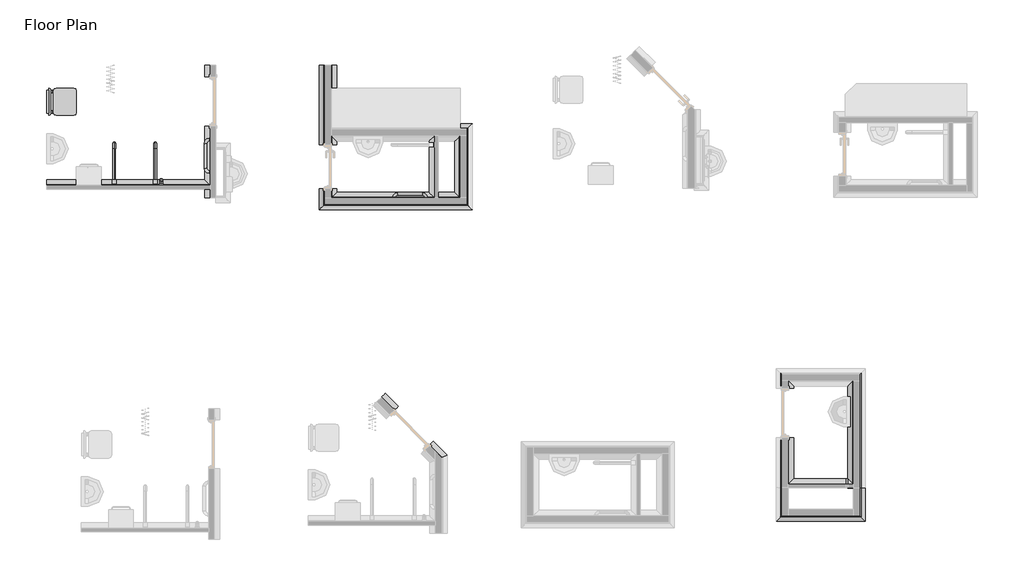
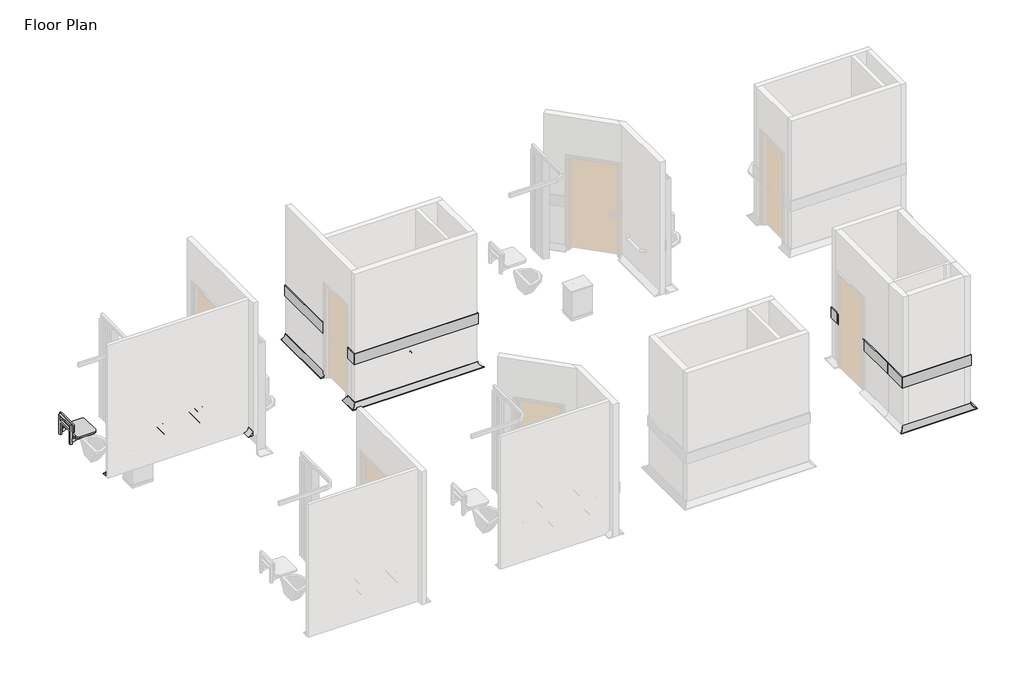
# One storey, part 3 of 4: 31 proxies.
"""IFC4 building model written with IfcOpenShell, lengths in millimetres."""

from ifc_helpers import new_model, si_unit, point, frame, frame_2d, origin, place, context, project, spatial, polyline, circle_curve, ellipse_curve, trimmed, segment, composite_curve, outline, extrude, transform, mapped, element, save
from ifc_brep_helpers import plane_surface, revolved_surface, advanced_brep
from components import generic_models_2748bf89, generic_models_79982e2d, type_1_021b8e3e, type_1_c6378e0a, type_1_5029713c

model = new_model("IFC4")

# Units and contexts
model_context = context("Model", 3, world=origin())
ifc_project = project(units=[si_unit("LENGTHUNIT", "METRE", prefix="MILLI")], contexts=[model_context])

# Site, building, storey
site = spatial("IfcSite", under=ifc_project)
building = spatial("IfcBuilding", under=site)
storey = spatial("IfcBuildingStorey", under=building, Name="Floor Plan", Elevation=0.0)

# Proxies
placement = place(None, origin())
element("IfcBuildingElementProxy", 1, Name="Wall Sweeps", at=placement, inside=storey, context=model_context, shape_type="AdvancedBrep", body=[
    advanced_brep(
    [(51894.1778474, -16143.6150189, 0.0), (51894.1778474, -16143.6150189, 100.0), (51904.1778474, -16143.6150189, 100.0), (51994.1778474, -16143.6150189, 10.0), (51994.1778474, -16143.6150189, 0.0), (51894.1778474, -17067.8650189, 0.0), (51994.1778474, -17067.8650189, 0.0), (51994.1778474, -17067.8650189, 10.0), (51904.1778474, -17067.8650189, 100.0), (51894.1778474, -17067.8650189, 100.0)],
    [
        (0, 1),
        (1, 2),
        (2, 3, circle_curve(frame((51994.1778474, -16143.6150189, 100.0), z_axis=(0.0, -1.0, 0.0), x_axis=(1.0, 0.0, 0.0)), 90.0)),
        (3, 4),
        (4, 0),
        (5, 6),
        (6, 7),
        (7, 8, circle_curve(frame((51994.1778474, -17067.8650189, 100.0), z_axis=(0.0, 1.0, 0.0), x_axis=(1.0, 0.0, 0.0)), 90.0)),
        (8, 9),
        (9, 5),
        (4, 6),
        (5, 0),
        (3, 7),
        (2, 8),
        (1, 9),
    ],
    [
        plane_surface(frame((51793.6790911, -16143.6150189, 0.0), z_axis=(0.0, 1.0, 0.0), x_axis=(0.0, 0.0, -1.0))),
        plane_surface(frame((51793.6790911, -17067.8650189, 0.0), z_axis=(0.0, -1.0, 0.0), x_axis=(0.0, 0.0, -1.0))),
        plane_surface(frame((51994.1778474, -16143.6150189, 0.0), z_axis=(0.0, 0.0, -1.0), x_axis=(0.0, -1.0, 0.0))),
        plane_surface(frame((51994.1778474, -16143.6150189, 10.0), z_axis=(1.0, 0.0, 0.0), x_axis=(0.0, -1.0, 0.0))),
        revolved_surface(polyline([(52084.1778474, -17067.8650189, 100.0), (52084.1778474, -16143.6150189, 100.0)]), (51994.1778474, -16143.6150189, 100.0), (0.0, -1.0, 0.0)),
        plane_surface(frame((51894.1778474, -16143.6150189, 100.0), z_axis=(0.0, 0.0, 1.0), x_axis=(0.0, -1.0, 0.0))),
        plane_surface(frame((51894.1778474, -16143.6150189, 0.0), z_axis=(-1.0, 0.0, 0.0), x_axis=(0.0, -1.0, 0.0))),
    ],
    [
        (0, [[1, 2, 3, 4, 5]]),
        (1, [[6, 7, 8, 9, 10]]),
        (2, [[-5, 11, -6, 12]]),
        (3, [[-4, 13, -7, -11]]),
        (4, [[-3, 14, -8, -13]]),
        (5, [[-2, 15, -9, -14]]),
        (6, [[-1, -12, -10, -15]]),
    ],
),
    advanced_brep(
    [(51894.1778474, -15093.6150189, 0.0), (51894.1778474, -15093.6150189, 100.0), (51904.1778474, -15103.6150189, 100.0), (51994.1778474, -15193.6150189, 10.0), (51994.1778474, -15193.6150189, 0.0), (51894.1778474, -15233.6150189, 0.0), (51994.1778474, -15233.6150189, 0.0), (51994.1778474, -15233.6150189, 10.0), (51904.1778474, -15233.6150189, 100.0), (51894.1778474, -15233.6150189, 100.0)],
    [
        (0, 1),
        (1, 2),
        (2, 3, ellipse_curve(frame((51994.1778474, -15193.6150189, 100.0), z_axis=(-0.707106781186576, -0.7071067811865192, 0.0), x_axis=(0.7071067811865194, -0.7071067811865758, 0.0)), 127.2792206, 90.0)),
        (3, 4),
        (4, 0),
        (5, 6),
        (6, 7),
        (7, 8, circle_curve(frame((51994.1778474, -15233.6150189, 100.0), z_axis=(0.0, 1.0, 0.0), x_axis=(1.0, 0.0, 0.0)), 90.0)),
        (8, 9),
        (9, 5),
        (0, 5),
        (9, 1),
        (8, 2),
        (7, 3),
        (6, 4),
    ],
    [
        plane_surface(frame((51894.1778474, -15093.6150189, -304.8), z_axis=(0.707106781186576, 0.7071067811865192, 0.0), x_axis=(0.7071067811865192, -0.707106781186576, 0.0))),
        plane_surface(frame((51793.6790911, -15233.6150189, 0.0), z_axis=(0.0, -1.0, 0.0), x_axis=(0.0, 0.0, -1.0))),
        plane_surface(frame((51894.1778474, -15093.6150189, 0.0), z_axis=(-1.0, 0.0, 0.0), x_axis=(0.0, -1.0, 0.0))),
        plane_surface(frame((51894.1778474, -15093.6150189, 100.0), z_axis=(0.0, 0.0, 1.0), x_axis=(0.0, -1.0, 0.0))),
        revolved_surface(polyline([(52084.1778474, -15283.615018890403, 100.0), (52084.1778474, -15103.6150189, 100.0)]), (51994.1778474, -15093.6150189, 100.0), (0.0, -1.0, 0.0)),
        plane_surface(frame((51994.1778474, -15193.6150189, 10.0), z_axis=(1.0, 0.0, 0.0), x_axis=(0.0, -1.0, 0.0))),
        plane_surface(frame((51994.1778474, -15193.6150189, 0.0), z_axis=(0.0, 0.0, -1.0), x_axis=(0.0, -1.0, 0.0))),
    ],
    [
        (0, [[1, 2, 3, 4, 5]]),
        (1, [[6, 7, 8, 9, 10]]),
        (2, [[-1, 11, -10, 12]]),
        (3, [[-2, -12, -9, 13]]),
        (4, [[-3, -13, -8, 14]]),
        (5, [[-4, -14, -7, 15]]),
        (6, [[-5, -15, -6, -11]]),
    ],
),
])
element("IfcBuildingElementProxy", 2, Name="Wall Sweeps", at=placement, inside=storey, context=model_context, shape_type="SweptSolid", body=[
    extrude(outline(polyline([(51753.6778474, -14953.1150189), (51772.6778474, -14972.1150189), (51772.6778474, -15233.6150189), (51753.6778474, -15233.6150189), (51753.6778474, -14953.1150189)])), frame((0.0, 0.0, 965.0), z_axis=(0.0, 0.0, 1.0), x_axis=(1.0, 0.0, 0.0)), (0.0, 0.0, 1.0), 235.0),
    extrude(outline(polyline([(51753.6778474, -16143.6150189), (51772.6778474, -16143.6150189), (51772.6778474, -17067.8650189), (51753.6778474, -17067.8650189), (51753.6778474, -16143.6150189)])), frame((0.0, 0.0, 965.0), z_axis=(0.0, 0.0, 1.0), x_axis=(1.0, 0.0, 0.0)), (0.0, 0.0, 1.0), 235.0),
])
element("IfcBuildingElementProxy", 3, Name="Wall Sweeps", at=placement, inside=storey, context=model_context, shape_type="SweptSolid", body=[
    extrude(outline(composite_curve([segment(polyline([(-16998.6150189, 0.0), (-16998.6150189, 100.0), (-16988.6150189, 100.0)]), True, "CONTINUOUS"), segment(trimmed(circle_curve(frame_2d((-16898.6150189, 100.0)), 90.0), [point((-16988.6150189, 100.0))], [point((-16898.6150189, 10.0))], True, "CARTESIAN"), True, "CONTINUOUS"), segment(polyline([(-16898.6150189, 10.0), (-16898.6150189, 0.0), (-16998.6150189, 0.0)]), True, "CONTINUOUS")], self_intersect=False)), frame((52993.4278474, 0.0, 0.0), z_axis=(1.0, 0.0, 0.0), x_axis=(0.0, 1.0, 0.0)), (0.0, 0.0, 1.0), 100.75),
])
element("IfcBuildingElementProxy", 4, Name="Wall Sweeps", at=placement, inside=storey, context=model_context, shape_type="AdvancedBrep", body=[
    advanced_brep(
    [(53215.6778474, -17582.1150189, 0.0), (53315.6778474, -17682.1150189, 0.0), (53315.6778474, -17682.1150189, 10.0), (53225.6778474, -17592.1150189, 100.0), (53215.6778474, -17582.1150189, 100.0), (53215.6778474, -17073.6150189, 0.0), (53215.6778474, -17073.6150189, 100.0), (53225.6778474, -17073.6150189, 100.0), (53315.6778474, -17073.6150189, 10.0), (53315.6778474, -17073.6150189, 0.0)],
    [
        (0, 1),
        (1, 2),
        (2, 3, ellipse_curve(frame((53315.6778474, -17682.1150189, 100.0), z_axis=(0.7071067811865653, 0.7071067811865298, 0.0), x_axis=(-0.7071067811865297, 0.7071067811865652, 0.0)), 127.2792206, 90.0)),
        (3, 4),
        (4, 0),
        (5, 6),
        (6, 7),
        (7, 8, circle_curve(frame((53315.6778474, -17073.6150189, 100.0), z_axis=(0.0, -1.0, 0.0), x_axis=(1.0, 0.0, 0.0)), 90.0)),
        (8, 9),
        (9, 5),
        (4, 6),
        (5, 0),
        (3, 7),
        (2, 8),
        (1, 9),
    ],
    [
        plane_surface(frame((53215.6778474, -17582.1150189, -304.8), z_axis=(-0.7071067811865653, -0.7071067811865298, 0.0), x_axis=(-0.7071067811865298, 0.7071067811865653, 0.0))),
        plane_surface(frame((53215.6778474, -17073.6150189, 304.8), z_axis=(0.0, 1.0, 0.0), x_axis=(1.0, 0.0, 0.0))),
        plane_surface(frame((53215.6778474, -17582.1150189, 100.0), z_axis=(-1.0, 0.0, 0.0), x_axis=(0.0, 1.0, 0.0))),
        plane_surface(frame((53225.6778474, -17592.1150189, 100.0), z_axis=(0.0, 0.0, 1.0), x_axis=(0.0, 1.0, 0.0))),
        revolved_surface(polyline([(53405.6778474, -17073.6150189, 100.0), (53405.6778474, -17772.1150188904, 100.0)]), (53315.6778474, -17582.1150189, 100.0), (0.0, 1.0, 0.0)),
        plane_surface(frame((53315.6778474, -17682.1150189, 0.0), z_axis=(1.0, 0.0, 0.0), x_axis=(0.0, 1.0, 0.0))),
        plane_surface(frame((53215.6778474, -17582.1150189, 0.0), z_axis=(0.0, 0.0, -1.0), x_axis=(0.0, 1.0, 0.0))),
    ],
    [
        (0, [[1, 2, 3, 4, 5]]),
        (1, [[6, 7, 8, 9, 10]]),
        (2, [[-5, 11, -6, 12]]),
        (3, [[-4, 13, -7, -11]]),
        (4, [[-3, 14, -8, -13]]),
        (5, [[-2, 15, -9, -14]]),
        (6, [[-1, -12, -10, -15]]),
    ],
),
])
element("IfcBuildingElementProxy", 5, Name="Wall Sweeps", at=placement, inside=storey, context=model_context, shape_type="SweptSolid", body=[
    extrude(outline(polyline([(53234.6778474, -17601.1150189), (53215.6778474, -17582.1150189), (53215.6778474, -17073.6150189), (53234.6778474, -17073.6150189), (53234.6778474, -17601.1150189)])), frame((0.0, 0.0, 965.0), z_axis=(0.0, 0.0, 1.0), x_axis=(1.0, 0.0, 0.0)), (0.0, 0.0, 1.0), 235.0),
])
element("IfcBuildingElementProxy", 6, Name="Wall Sweeps", at=placement, inside=storey, context=model_context, shape_type="AdvancedBrep", body=[
    advanced_brep(
    [(53215.6778474, -17582.1150189, 0.0), (53215.6778474, -17582.1150189, 100.0), (53225.6778474, -17592.1150189, 100.0), (53315.6778474, -17682.1150189, 10.0), (53315.6778474, -17682.1150189, 0.0), (51772.6778474, -17582.1150189, 0.0), (51672.6778474, -17682.1150189, 0.0), (51672.6778474, -17682.1150189, 10.0), (51762.6778474, -17592.1150189, 100.0), (51772.6778474, -17582.1150189, 100.0), (53094.1778474, -17582.1150189, 0.0), (51894.1778474, -17582.1150189, 0.0)],
    [
        (0, 1),
        (1, 2),
        (2, 3, ellipse_curve(frame((53315.6778474, -17682.1150189, 100.0), z_axis=(-0.7071067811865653, -0.7071067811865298, 0.0), x_axis=(-0.7071067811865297, 0.7071067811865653, 0.0)), 127.2792206, 90.0)),
        (3, 4),
        (4, 0),
        (5, 6),
        (6, 7),
        (7, 8, ellipse_curve(frame((51672.6778474, -17682.1150189, 100.0), z_axis=(0.7071067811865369, -0.7071067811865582, 0.0), x_axis=(-0.7071067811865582, -0.7071067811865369, 0.0)), 127.2792206, 90.0)),
        (8, 9),
        (9, 5),
        (0, 10),
        (10, 11),
        (11, 5),
        (9, 1),
        (8, 2),
        (7, 3),
        (6, 4),
    ],
    [
        plane_surface(frame((53215.6778474, -17582.1150189, 304.8), z_axis=(0.7071067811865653, 0.7071067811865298, 0.0), x_axis=(-0.7071067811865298, 0.7071067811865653, 0.0))),
        plane_surface(frame((51772.6778474, -17582.1150189, 304.8), z_axis=(-0.7071067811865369, 0.7071067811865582, 0.0), x_axis=(0.7071067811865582, 0.7071067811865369, 0.0))),
        plane_surface(frame((53215.6778474, -17582.1150189, 0.0), z_axis=(0.0, 1.0, 0.0), x_axis=(-1.0, 0.0, 0.0))),
        plane_surface(frame((53215.6778474, -17582.1150189, 100.0), z_axis=(0.0, 0.0, 1.0), x_axis=(-1.0, 0.0, 0.0))),
        revolved_surface(polyline([(51582.6778474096, -17772.1150189, 100.0), (53405.6778473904, -17772.1150189, 100.0)]), (53215.6778474, -17682.1150189, 100.0), (-1.0, 0.0, 0.0)),
        plane_surface(frame((53315.6778474, -17682.1150189, 10.0), z_axis=(0.0, -1.0, 0.0), x_axis=(-1.0, 0.0, 0.0))),
        plane_surface(frame((53315.6778474, -17682.1150189, 0.0), z_axis=(0.0, 0.0, -1.0), x_axis=(-1.0, 0.0, 0.0))),
    ],
    [
        (0, [[1, 2, 3, 4, 5]]),
        (1, [[6, 7, 8, 9, 10]]),
        (2, [[-1, 11, 12, 13, -10, 14]]),
        (3, [[-2, -14, -9, 15]]),
        (4, [[-3, -15, -8, 16]]),
        (5, [[-4, -16, -7, 17]]),
        (6, [[-5, -17, -6, -13, -12, -11]]),
    ],
),
])
element("IfcBuildingElementProxy", 7, Name="Wall Sweeps", at=placement, inside=storey, context=model_context, shape_type="SweptSolid", body=[
    extrude(outline(polyline([(53215.6778474, -17582.1150189), (53234.6778474, -17601.1150189), (51753.6778474, -17601.1150189), (51772.6778474, -17582.1150189), (53215.6778474, -17582.1150189)])), frame((0.0, 0.0, 965.0), z_axis=(0.0, 0.0, 1.0), x_axis=(1.0, 0.0, 0.0)), (0.0, 0.0, 1.0), 235.0),
])
element("IfcBuildingElementProxy", 8, Name="Wall Sweeps", at=placement, inside=storey, context=model_context, shape_type="SweptSolid", body=[
    extrude(outline(polyline([(51753.6778474, -17067.8650189), (51772.6778474, -17067.8650189), (51772.6778474, -17582.1150189), (51753.6778474, -17601.1150189), (51753.6778474, -17067.8650189)])), frame((0.0, 0.0, 965.0), z_axis=(0.0, 0.0, 1.0), x_axis=(1.0, 0.0, 0.0)), (0.0, 0.0, 1.0), 235.0),
])
element("IfcBuildingElementProxy", 9, Name="Wall Sweeps", at=placement, inside=storey, context=model_context, shape_type="SweptSolid", body=[
    extrude(outline(composite_curve([segment(polyline([(-16998.6150189, 0.0), (-16998.6150189, 100.0), (-16988.6150189, 100.0)]), True, "CONTINUOUS"), segment(trimmed(circle_curve(frame_2d((-16898.6150189, 100.0)), 90.0), [point((-16988.6150189, 100.0))], [point((-16898.6150189, 10.0))], True, "CARTESIAN"), True, "CONTINUOUS"), segment(polyline([(-16898.6150189, 10.0), (-16898.6150189, 0.0), (-16998.6150189, 0.0)]), True, "CONTINUOUS")], self_intersect=False)), frame((51894.1778474, 0.0, 0.0), z_axis=(1.0, 0.0, 0.0), x_axis=(0.0, 1.0, 0.0)), (0.0, 0.0, 1.0), 1059.25),
])
element("IfcBuildingElementProxy", 10, Name="Wall Sweeps", at=placement, inside=storey, context=model_context, shape_type="SweptSolid", body=[
    extrude(outline(composite_curve([segment(polyline([(-16998.6150189, 0.0), (-16998.6150189, 100.0), (-16988.6150189, 100.0)]), True, "CONTINUOUS"), segment(trimmed(circle_curve(frame_2d((-16898.6150189, 100.0)), 90.0), [point((-16988.6150189, 100.0))], [point((-16898.6150189, 10.0))], True, "CARTESIAN"), True, "CONTINUOUS"), segment(polyline([(-16898.6150189, 10.0), (-16898.6150189, 0.0), (-16998.6150189, 0.0)]), True, "CONTINUOUS")], self_intersect=False)), frame((52953.4278474, 0.0, 0.0), z_axis=(1.0, 0.0, 0.0), x_axis=(0.0, 1.0, 0.0)), (0.0, 0.0, 1.0), 40.0),
])
element("IfcBuildingElementProxy", 11, Name="Wall Sweeps", at=placement, inside=storey, context=model_context, shape_type="AdvancedBrep", body=[
    advanced_brep(
    [(53094.1778474, -17073.6150189, 0.0), (53094.1778474, -17073.6150189, 100.0), (53084.1778474, -17073.6150189, 100.0), (52994.1778474, -17073.6150189, 10.0), (52994.1778474, -17073.6150189, 0.0), (53094.1778474, -15093.6150189, 0.0), (52994.1778474, -15193.6150189, 0.0), (52994.1778474, -15193.6150189, 10.0), (53084.1778474, -15103.6150189, 100.0), (53094.1778474, -15093.6150189, 100.0)],
    [
        (0, 1),
        (1, 2),
        (2, 3, circle_curve(frame((52994.1778474, -17073.6150189, 100.0), z_axis=(0.0, 1.0, 0.0), x_axis=(-1.0, 0.0, 0.0)), 90.0)),
        (3, 4),
        (4, 0),
        (5, 6),
        (6, 7),
        (7, 8, ellipse_curve(frame((52994.1778474, -15193.6150189, 100.0), z_axis=(0.7071067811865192, -0.707106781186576, 0.0), x_axis=(0.707106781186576, 0.7071067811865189, 0.0)), 127.2792206, 90.0)),
        (8, 9),
        (9, 5),
        (0, 5),
        (9, 1),
        (8, 2),
        (7, 3),
        (6, 4),
    ],
    [
        plane_surface(frame((52993.6790911, -17073.6150189, 0.0), z_axis=(0.0, -1.0, 0.0), x_axis=(0.0, 0.0, 1.0))),
        plane_surface(frame((53094.1778474, -15093.6150189, -304.8), z_axis=(-0.7071067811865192, 0.707106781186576, 0.0), x_axis=(-0.707106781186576, -0.7071067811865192, 0.0))),
        plane_surface(frame((53094.1778474, -17073.6150189, 0.0), z_axis=(1.0, 0.0, 0.0), x_axis=(0.0, 1.0, 0.0))),
        plane_surface(frame((53094.1778474, -17073.6150189, 100.0), z_axis=(0.0, 0.0, 1.0), x_axis=(0.0, 1.0, 0.0))),
        revolved_surface(polyline([(52904.1778474, -15103.6150189, 100.0), (52904.1778474, -17073.6150189, 100.0)]), (52994.1778474, -17073.6150189, 100.0), (0.0, 1.0, 0.0)),
        plane_surface(frame((52994.1778474, -17073.6150189, 10.0), z_axis=(-1.0, 0.0, 0.0), x_axis=(0.0, 1.0, 0.0))),
        plane_surface(frame((52994.1778474, -17073.6150189, 0.0), z_axis=(0.0, 0.0, -1.0), x_axis=(0.0, 1.0, 0.0))),
    ],
    [
        (0, [[1, 2, 3, 4, 5]]),
        (1, [[6, 7, 8, 9, 10]]),
        (2, [[-1, 11, -10, 12]]),
        (3, [[-2, -12, -9, 13]]),
        (4, [[-3, -13, -8, 14]]),
        (5, [[-4, -14, -7, 15]]),
        (6, [[-5, -15, -6, -11]]),
    ],
),
])
element("IfcBuildingElementProxy", 12, Name="Wall Sweeps", at=placement, inside=storey, context=model_context, shape_type="SweptSolid", body=[
    extrude(outline(polyline([(53234.6778474, -17073.6150189), (53215.6778474, -17073.6150189), (53215.6778474, -14972.1150189), (53234.6778474, -14953.1150189), (53234.6778474, -17073.6150189)])), frame((0.0, 0.0, 965.0), z_axis=(0.0, 0.0, 1.0), x_axis=(1.0, 0.0, 0.0)), (0.0, 0.0, 1.0), 235.0),
])
element("IfcBuildingElementProxy", 13, Name="Wall Sweeps", at=placement, inside=storey, context=model_context, shape_type="AdvancedBrep", body=[
    advanced_brep(
    [(43353.96766, -11847.6184808, 0.0), (43253.96766, -11947.6184808, 0.0), (43253.96766, -11947.6184808, 10.0), (43343.96766, -11857.6184808, 100.0), (43353.96766, -11847.6184808, 100.0), (45970.46766, -11847.6184808, 0.0), (45970.46766, -11847.6184808, 100.0), (45980.46766, -11857.6184808, 100.0), (46070.46766, -11947.6184808, 10.0), (46070.46766, -11947.6184808, 0.0)],
    [
        (0, 1),
        (1, 2),
        (2, 3, ellipse_curve(frame((43253.96766, -11947.6184808, 100.0), z_axis=(0.7071067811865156, -0.7071067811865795, 0.0), x_axis=(0.7071067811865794, 0.7071067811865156, 0.0)), 127.2792206, 90.0)),
        (3, 4),
        (4, 0),
        (5, 6),
        (6, 7),
        (7, 8, ellipse_curve(frame((46070.46766, -11947.6184808, 100.0), z_axis=(-0.7071067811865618, -0.7071067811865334, 0.0), x_axis=(0.7071067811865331, -0.7071067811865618, 0.0)), 127.2792206, 90.0)),
        (8, 9),
        (9, 5),
        (4, 6),
        (5, 0),
        (3, 7),
        (2, 8),
        (1, 9),
    ],
    [
        plane_surface(frame((43353.96766, -11847.6184808, -304.8), z_axis=(-0.7071067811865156, 0.7071067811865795, 0.0), x_axis=(0.7071067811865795, 0.7071067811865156, 0.0))),
        plane_surface(frame((45970.46766, -11847.6184808, -304.8), z_axis=(0.7071067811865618, 0.7071067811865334, 0.0), x_axis=(-0.7071067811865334, 0.7071067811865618, 0.0))),
        plane_surface(frame((43353.96766, -11847.6184808, 100.0), z_axis=(0.0, 1.0, 0.0), x_axis=(1.0, 0.0, 0.0))),
        plane_surface(frame((43343.96766, -11857.6184808, 100.0), z_axis=(0.0, 0.0, 1.0), x_axis=(1.0, 0.0, 0.0))),
        revolved_surface(polyline([(46160.4676599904, -12037.6184808, 100.0), (43163.9676600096, -12037.6184808, 100.0)]), (43353.96766, -11947.6184808, 100.0), (1.0, 0.0, 0.0)),
        plane_surface(frame((43253.96766, -11947.6184808, 0.0), z_axis=(0.0, -1.0, 0.0), x_axis=(1.0, 0.0, 0.0))),
        plane_surface(frame((43353.96766, -11847.6184808, 0.0), z_axis=(0.0, 0.0, -1.0), x_axis=(1.0, 0.0, 0.0))),
    ],
    [
        (0, [[1, 2, 3, 4, 5]]),
        (1, [[6, 7, 8, 9, 10]]),
        (2, [[-5, 11, -6, 12]]),
        (3, [[-4, 13, -7, -11]]),
        (4, [[-3, 14, -8, -13]]),
        (5, [[-2, 15, -9, -14]]),
        (6, [[-1, -12, -10, -15]]),
    ],
),
])
element("IfcBuildingElementProxy", 14, Name="Wall Sweeps", at=placement, inside=storey, context=model_context, shape_type="AdvancedBrep", body=[
    advanced_brep(
    [(43475.46766, -11726.1184808, 0.0), (43475.46766, -11726.1184808, 100.0), (43485.46766, -11716.1184808, 100.0), (43575.46766, -11626.1184808, 10.0), (43575.46766, -11626.1184808, 0.0), (45848.96766, -11726.1184808, 0.0), (45748.96766, -11626.1184808, 0.0), (45748.96766, -11626.1184808, 10.0), (45838.96766, -11716.1184808, 100.0), (45848.96766, -11726.1184808, 100.0)],
    [
        (0, 1),
        (1, 2),
        (2, 3, ellipse_curve(frame((43575.46766, -11626.1184808, 100.0), z_axis=(0.7071067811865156, -0.7071067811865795, 0.0), x_axis=(0.7071067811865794, 0.7071067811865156, 0.0)), 127.2792206, 90.0)),
        (3, 4),
        (4, 0),
        (5, 6),
        (6, 7),
        (7, 8, ellipse_curve(frame((45748.96766, -11626.1184808, 100.0), z_axis=(-0.7071067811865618, -0.7071067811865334, 0.0), x_axis=(0.7071067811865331, -0.7071067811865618, 0.0)), 127.2792206, 90.0)),
        (8, 9),
        (9, 5),
        (4, 6),
        (5, 0),
        (3, 7),
        (2, 8),
        (1, 9),
    ],
    [
        plane_surface(frame((43475.46766, -11726.1184808, -304.8), z_axis=(-0.7071067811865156, 0.7071067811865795, 0.0), x_axis=(0.7071067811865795, 0.7071067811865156, 0.0))),
        plane_surface(frame((45848.96766, -11726.1184808, -304.8), z_axis=(0.7071067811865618, 0.7071067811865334, 0.0), x_axis=(-0.7071067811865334, 0.7071067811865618, 0.0))),
        plane_surface(frame((43575.46766, -11626.1184808, 0.0), z_axis=(0.0, 0.0, -1.0), x_axis=(1.0, 0.0, 0.0))),
        plane_surface(frame((43575.46766, -11626.1184808, 10.0), z_axis=(0.0, 1.0, 0.0), x_axis=(1.0, 0.0, 0.0))),
        revolved_surface(polyline([(45838.96766, -11536.1184808, 100.0), (43485.46766, -11536.1184808, 100.0)]), (43475.46766, -11626.1184808, 100.0), (1.0, 0.0, 0.0)),
        plane_surface(frame((43475.46766, -11726.1184808, 100.0), z_axis=(0.0, 0.0, 1.0), x_axis=(1.0, 0.0, 0.0))),
        plane_surface(frame((43475.46766, -11726.1184808, 0.0), z_axis=(0.0, -1.0, 0.0), x_axis=(1.0, 0.0, 0.0))),
    ],
    [
        (0, [[1, 2, 3, 4, 5]]),
        (1, [[6, 7, 8, 9, 10]]),
        (2, [[-5, 11, -6, 12]]),
        (3, [[-4, 13, -7, -11]]),
        (4, [[-3, 14, -8, -13]]),
        (5, [[-2, 15, -9, -14]]),
        (6, [[-1, -12, -10, -15]]),
    ],
),
])
element("IfcBuildingElementProxy", 15, Name="Wall Sweeps", at=placement, inside=storey, context=model_context, shape_type="SweptSolid", body=[
    extrude(outline(polyline([(43334.96766, -11866.6184808), (43353.96766, -11847.6184808), (45970.46766, -11847.6184808), (45989.46766, -11866.6184808), (43334.96766, -11866.6184808)])), frame((0.0, 0.0, 965.0), z_axis=(0.0, 0.0, 1.0), x_axis=(1.0, 0.0, 0.0)), (0.0, 0.0, 1.0), 235.0),
])
element("IfcBuildingElementProxy", 16, Name="Wall Sweeps", at=placement, inside=storey, context=model_context, shape_type="AdvancedBrep", body=[
    advanced_brep(
    [(43353.96766, -10751.4934808, 0.0), (43353.96766, -10751.4934808, 100.0), (43343.96766, -10751.4934808, 100.0), (43253.96766, -10751.4934808, 10.0), (43253.96766, -10751.4934808, 0.0), (43353.96766, -9286.8684808, 0.0), (43253.96766, -9286.8684808, 0.0), (43253.96766, -9286.8684808, 10.0), (43343.96766, -9286.8684808, 100.0), (43353.96766, -9286.8684808, 100.0)],
    [
        (0, 1),
        (1, 2),
        (2, 3, circle_curve(frame((43253.96766, -10751.4934808, 100.0), z_axis=(0.0, 1.0, 0.0), x_axis=(-1.0, 0.0, 0.0)), 90.0)),
        (3, 4),
        (4, 0),
        (5, 6),
        (6, 7),
        (7, 8, circle_curve(frame((43253.96766, -9286.8684808, 100.0), z_axis=(0.0, -1.0, 0.0), x_axis=(-1.0, 0.0, 0.0)), 90.0)),
        (8, 9),
        (9, 5),
        (0, 5),
        (9, 1),
        (8, 2),
        (7, 3),
        (6, 4),
    ],
    [
        plane_surface(frame((43253.4689038, -10751.4934808, 0.0), z_axis=(0.0, -1.0, 0.0), x_axis=(0.0, 0.0, 1.0))),
        plane_surface(frame((43253.4689038, -9286.8684808, 0.0), z_axis=(0.0, 1.0, 0.0), x_axis=(0.0, 0.0, 1.0))),
        plane_surface(frame((43353.96766, -10751.4934808, 0.0), z_axis=(1.0, 0.0, 0.0), x_axis=(0.0, 1.0, 0.0))),
        plane_surface(frame((43353.96766, -10751.4934808, 100.0), z_axis=(0.0, 0.0, 1.0), x_axis=(0.0, 1.0, 0.0))),
        revolved_surface(polyline([(43163.96766, -9286.8684808, 100.0), (43163.96766, -10751.4934808, 100.0)]), (43253.96766, -10751.4934808, 100.0), (0.0, 1.0, 0.0)),
        plane_surface(frame((43253.96766, -10751.4934808, 10.0), z_axis=(-1.0, 0.0, 0.0), x_axis=(0.0, 1.0, 0.0))),
        plane_surface(frame((43253.96766, -10751.4934808, 0.0), z_axis=(0.0, 0.0, -1.0), x_axis=(0.0, 1.0, 0.0))),
    ],
    [
        (0, [[1, 2, 3, 4, 5]]),
        (1, [[6, 7, 8, 9, 10]]),
        (2, [[-1, 11, -10, 12]]),
        (3, [[-2, -12, -9, 13]]),
        (4, [[-3, -13, -8, 14]]),
        (5, [[-4, -14, -7, 15]]),
        (6, [[-5, -15, -6, -11]]),
    ],
),
    advanced_brep(
    [(43353.96766, -11847.6184808, 0.0), (43353.96766, -11847.6184808, 100.0), (43343.96766, -11857.6184808, 100.0), (43253.96766, -11947.6184808, 10.0), (43253.96766, -11947.6184808, 0.0), (43353.96766, -11561.4934808, 0.0), (43253.96766, -11561.4934808, 0.0), (43253.96766, -11561.4934808, 10.0), (43343.96766, -11561.4934808, 100.0), (43353.96766, -11561.4934808, 100.0), (43353.96766, -11726.1184808, 0.0)],
    [
        (0, 1),
        (1, 2),
        (2, 3, ellipse_curve(frame((43253.96766, -11947.6184808, 100.0), z_axis=(-0.7071067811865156, 0.7071067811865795, 0.0), x_axis=(0.7071067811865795, 0.7071067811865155, 0.0)), 127.2792206, 90.0)),
        (3, 4),
        (4, 0),
        (5, 6),
        (6, 7),
        (7, 8, circle_curve(frame((43253.96766, -11561.4934808, 100.0), z_axis=(0.0, -1.0, 0.0), x_axis=(-1.0, 0.0, 0.0)), 90.0)),
        (8, 9),
        (9, 5),
        (0, 10),
        (10, 5),
        (9, 1),
        (8, 2),
        (7, 3),
        (6, 4),
    ],
    [
        plane_surface(frame((43353.96766, -11847.6184808, 304.8), z_axis=(0.7071067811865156, -0.7071067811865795, 0.0), x_axis=(0.7071067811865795, 0.7071067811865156, 0.0))),
        plane_surface(frame((43253.4689038, -11561.4934808, 0.0), z_axis=(0.0, 1.0, 0.0), x_axis=(0.0, 0.0, 1.0))),
        plane_surface(frame((43353.96766, -11847.6184808, 0.0), z_axis=(1.0, 0.0, 0.0), x_axis=(0.0, 1.0, 0.0))),
        plane_surface(frame((43353.96766, -11847.6184808, 100.0), z_axis=(0.0, 0.0, 1.0), x_axis=(0.0, 1.0, 0.0))),
        revolved_surface(polyline([(43163.96766, -11561.4934808, 100.0), (43163.96766, -12037.618480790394, 100.0)]), (43253.96766, -11847.6184808, 100.0), (0.0, 1.0, 0.0)),
        plane_surface(frame((43253.96766, -11947.6184808, 10.0), z_axis=(-1.0, 0.0, 0.0), x_axis=(0.0, 1.0, 0.0))),
        plane_surface(frame((43253.96766, -11947.6184808, 0.0), z_axis=(0.0, 0.0, -1.0), x_axis=(0.0, 1.0, 0.0))),
    ],
    [
        (0, [[1, 2, 3, 4, 5]]),
        (1, [[6, 7, 8, 9, 10]]),
        (2, [[-1, 11, 12, -10, 13]]),
        (3, [[-2, -13, -9, 14]]),
        (4, [[-3, -14, -8, 15]]),
        (5, [[-4, -15, -7, 16]]),
        (6, [[-5, -16, -6, -12, -11]]),
    ],
),
])
element("IfcBuildingElementProxy", 17, Name="Wall Sweeps", at=placement, inside=storey, context=model_context, shape_type="AdvancedBrep", body=[
    advanced_brep(
    [(43475.46766, -11726.1184808, 0.0), (43575.46766, -11626.1184808, 0.0), (43575.46766, -11626.1184808, 10.0), (43485.46766, -11716.1184808, 100.0), (43475.46766, -11726.1184808, 100.0), (43475.46766, -11561.4934808, 0.0), (43475.46766, -11561.4934808, 100.0), (43485.46766, -11561.4934808, 100.0), (43575.46766, -11561.4934808, 10.0), (43575.46766, -11561.4934808, 0.0)],
    [
        (0, 1),
        (1, 2),
        (2, 3, ellipse_curve(frame((43575.46766, -11626.1184808, 100.0), z_axis=(-0.7071067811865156, 0.7071067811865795, 0.0), x_axis=(0.7071067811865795, 0.7071067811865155, 0.0)), 127.2792206, 90.0)),
        (3, 4),
        (4, 0),
        (5, 6),
        (6, 7),
        (7, 8, circle_curve(frame((43575.46766, -11561.4934808, 100.0), z_axis=(0.0, -1.0, 0.0), x_axis=(1.0, 0.0, 0.0)), 90.0)),
        (8, 9),
        (9, 5),
        (0, 5),
        (9, 1),
        (8, 2),
        (7, 3),
        (6, 4),
    ],
    [
        plane_surface(frame((43475.46766, -11726.1184808, 304.8), z_axis=(0.7071067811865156, -0.7071067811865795, 0.0), x_axis=(0.7071067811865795, 0.7071067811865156, 0.0))),
        plane_surface(frame((43374.9689038, -11561.4934808, 0.0), z_axis=(0.0, 1.0, 0.0), x_axis=(0.0, 0.0, 1.0))),
        plane_surface(frame((43475.46766, -11726.1184808, 0.0), z_axis=(0.0, 0.0, -1.0), x_axis=(0.0, 1.0, 0.0))),
        plane_surface(frame((43575.46766, -11626.1184808, 0.0), z_axis=(1.0, 0.0, 0.0), x_axis=(0.0, 1.0, 0.0))),
        revolved_surface(polyline([(43665.46766, -11536.118480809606, 100.0), (43665.46766, -11716.1184808, 100.0)]), (43575.46766, -11726.1184808, 100.0), (0.0, 1.0, 0.0)),
        plane_surface(frame((43485.46766, -11716.1184808, 100.0), z_axis=(0.0, 0.0, 1.0), x_axis=(0.0, 1.0, 0.0))),
        plane_surface(frame((43475.46766, -11726.1184808, 100.0), z_axis=(-1.0, 0.0, 0.0), x_axis=(0.0, 1.0, 0.0))),
    ],
    [
        (0, [[1, 2, 3, 4, 5]]),
        (1, [[6, 7, 8, 9, 10]]),
        (2, [[-1, 11, -10, 12]]),
        (3, [[-2, -12, -9, 13]]),
        (4, [[-3, -13, -8, 14]]),
        (5, [[-4, -14, -7, 15]]),
        (6, [[-5, -15, -6, -11]]),
    ],
),
    advanced_brep(
    [(43475.46766, -10751.4934808, 0.0), (43575.46766, -10751.4934808, 0.0), (43575.46766, -10751.4934808, 10.0), (43485.46766, -10751.4934808, 100.0), (43475.46766, -10751.4934808, 100.0), (43475.46766, -9286.8684808, 0.0), (43475.46766, -9286.8684808, 100.0), (43485.46766, -9286.8684808, 100.0), (43575.46766, -9286.8684808, 10.0), (43575.46766, -9286.8684808, 0.0)],
    [
        (0, 1),
        (1, 2),
        (2, 3, circle_curve(frame((43575.46766, -10751.4934808, 100.0), z_axis=(0.0, 1.0, 0.0), x_axis=(1.0, 0.0, 0.0)), 90.0)),
        (3, 4),
        (4, 0),
        (5, 6),
        (6, 7),
        (7, 8, circle_curve(frame((43575.46766, -9286.8684808, 100.0), z_axis=(0.0, -1.0, 0.0), x_axis=(1.0, 0.0, 0.0)), 90.0)),
        (8, 9),
        (9, 5),
        (0, 5),
        (9, 1),
        (8, 2),
        (7, 3),
        (6, 4),
    ],
    [
        plane_surface(frame((43374.9689038, -10751.4934808, 0.0), z_axis=(0.0, -1.0, 0.0), x_axis=(0.0, 0.0, 1.0))),
        plane_surface(frame((43374.9689038, -9286.8684808, 0.0), z_axis=(0.0, 1.0, 0.0), x_axis=(0.0, 0.0, 1.0))),
        plane_surface(frame((43475.46766, -10751.4934808, 0.0), z_axis=(0.0, 0.0, -1.0), x_axis=(0.0, 1.0, 0.0))),
        plane_surface(frame((43575.46766, -10751.4934808, 0.0), z_axis=(1.0, 0.0, 0.0), x_axis=(0.0, 1.0, 0.0))),
        revolved_surface(polyline([(43665.46766, -9286.8684808, 100.0), (43665.46766, -10751.4934808, 100.0)]), (43575.46766, -10751.4934808, 100.0), (0.0, 1.0, 0.0)),
        plane_surface(frame((43485.46766, -10751.4934808, 100.0), z_axis=(0.0, 0.0, 1.0), x_axis=(0.0, 1.0, 0.0))),
        plane_surface(frame((43475.46766, -10751.4934808, 100.0), z_axis=(-1.0, 0.0, 0.0), x_axis=(0.0, 1.0, 0.0))),
    ],
    [
        (0, [[1, 2, 3, 4, 5]]),
        (1, [[6, 7, 8, 9, 10]]),
        (2, [[-1, 11, -10, 12]]),
        (3, [[-2, -12, -9, 13]]),
        (4, [[-3, -13, -8, 14]]),
        (5, [[-4, -14, -7, 15]]),
        (6, [[-5, -15, -6, -11]]),
    ],
),
])
element("IfcBuildingElementProxy", 18, Name="Wall Sweeps", at=placement, inside=storey, context=model_context, shape_type="SweptSolid", body=[
    extrude(outline(polyline([(43353.96766, -10751.4934808), (43334.96766, -10751.4934808), (43334.96766, -9286.8684808), (43353.96766, -9286.8684808), (43353.96766, -10751.4934808)])), frame((0.0, 0.0, 965.0), z_axis=(0.0, 0.0, 1.0), x_axis=(1.0, 0.0, 0.0)), (0.0, 0.0, 1.0), 235.0),
    extrude(outline(polyline([(43353.96766, -11847.6184808), (43334.96766, -11866.6184808), (43334.96766, -11561.4934808), (43353.96766, -11561.4934808), (43353.96766, -11847.6184808)])), frame((0.0, 0.0, 965.0), z_axis=(0.0, 0.0, 1.0), x_axis=(1.0, 0.0, 0.0)), (0.0, 0.0, 1.0), 235.0),
])
element("IfcBuildingElementProxy", 19, Name="Wall Sweeps", at=placement, inside=storey, context=model_context, shape_type="SweptSolid", body=[
    extrude(outline(composite_curve([segment(polyline([(0.0, 45380.46766), (100.0, 45380.46766), (100.0, 45370.46766)]), True, "CONTINUOUS"), segment(trimmed(circle_curve(frame_2d((100.0, 45280.46766)), 90.0), [point((100.0, 45370.46766))], [point((10.0, 45280.46766))], True, "CARTESIAN"), True, "CONTINUOUS"), segment(polyline([(10.0, 45280.46766), (0.0, 45280.46766), (0.0, 45380.46766)]), True, "CONTINUOUS")], self_intersect=False)), frame((0.0, -11726.1184808, 0.0), z_axis=(0.0, 1.0, 0.0), x_axis=(0.0, 0.0, 1.0)), (0.0, 0.0, 1.0), 1139.25),
])
element("IfcBuildingElementProxy", 20, Name="Wall Sweeps", at=placement, inside=storey, context=model_context, shape_type="AdvancedBrep", body=[
    advanced_brep(
    [(45970.46766, -10465.3684808, 0.0), (46070.46766, -10365.3684808, 0.0), (46070.46766, -10365.3684808, 10.0), (45980.46766, -10455.3684808, 100.0), (45970.46766, -10465.3684808, 100.0), (43475.46766, -10465.3684808, 0.0), (43475.46766, -10465.3684808, 100.0), (43475.46766, -10455.3684808, 100.0), (43475.46766, -10365.3684808, 10.0), (43475.46766, -10365.3684808, 0.0)],
    [
        (0, 1),
        (1, 2),
        (2, 3, ellipse_curve(frame((46070.46766, -10365.3684808, 100.0), z_axis=(-0.7071067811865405, 0.7071067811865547, 0.0), x_axis=(-0.7071067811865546, -0.7071067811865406, 0.0)), 127.2792206, 90.0)),
        (3, 4),
        (4, 0),
        (5, 6),
        (6, 7),
        (7, 8, circle_curve(frame((43475.46766, -10365.3684808, 100.0), z_axis=(1.0, 0.0, 0.0), x_axis=(0.0, 1.0, 0.0)), 90.0)),
        (8, 9),
        (9, 5),
        (4, 6),
        (5, 0),
        (3, 7),
        (2, 8),
        (1, 9),
    ],
    [
        plane_surface(frame((45970.46766, -10465.3684808, -304.8), z_axis=(0.7071067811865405, -0.7071067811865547, 0.0), x_axis=(-0.7071067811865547, -0.7071067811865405, 0.0))),
        plane_surface(frame((43475.46766, -10465.3684808, -100.4987562), z_axis=(-1.0, 0.0, 0.0), x_axis=(0.0, -1.0, 0.0))),
        plane_surface(frame((45970.46766, -10465.3684808, 100.0), z_axis=(0.0, -1.0, 0.0), x_axis=(-1.0, 0.0, 0.0))),
        plane_surface(frame((45980.46766, -10455.3684808, 100.0), z_axis=(0.0, 0.0, 1.0), x_axis=(-1.0, 0.0, 0.0))),
        revolved_surface(polyline([(43475.46766, -10275.3684808, 100.0), (46160.467659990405, -10275.3684808, 100.0)]), (45970.46766, -10365.3684808, 100.0), (-1.0, 0.0, 0.0)),
        plane_surface(frame((46070.46766, -10365.3684808, 0.0), z_axis=(0.0, 1.0, 0.0), x_axis=(-1.0, 0.0, 0.0))),
        plane_surface(frame((45970.46766, -10465.3684808, 0.0), z_axis=(0.0, 0.0, -1.0), x_axis=(-1.0, 0.0, 0.0))),
    ],
    [
        (0, [[1, 2, 3, 4, 5]]),
        (1, [[6, 7, 8, 9, 10]]),
        (2, [[-5, 11, -6, 12]]),
        (3, [[-4, 13, -7, -11]]),
        (4, [[-3, 14, -8, -13]]),
        (5, [[-2, 15, -9, -14]]),
        (6, [[-1, -12, -10, -15]]),
    ],
),
])
element("IfcBuildingElementProxy", 21, Name="Wall Sweeps", at=placement, inside=storey, context=model_context, shape_type="AdvancedBrep", body=[
    advanced_brep(
    [(45848.96766, -10586.8684808, 0.0), (45748.96766, -10686.8684808, 0.0), (45748.96766, -10686.8684808, 10.0), (45838.96766, -10596.8684808, 100.0), (45848.96766, -10586.8684808, 100.0), (45848.96766, -11726.1184808, 0.0), (45848.96766, -11726.1184808, 100.0), (45838.96766, -11716.1184808, 100.0), (45748.96766, -11626.1184808, 10.0), (45748.96766, -11626.1184808, 0.0)],
    [
        (0, 1),
        (1, 2),
        (2, 3, ellipse_curve(frame((45748.96766, -10686.8684808, 100.0), z_axis=(0.7071067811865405, -0.7071067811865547, 0.0), x_axis=(-0.7071067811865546, -0.7071067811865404, 0.0)), 127.2792206, 90.0)),
        (3, 4),
        (4, 0),
        (5, 6),
        (6, 7),
        (7, 8, ellipse_curve(frame((45748.96766, -11626.1184808, 100.0), z_axis=(0.7071067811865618, 0.7071067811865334, 0.0), x_axis=(0.7071067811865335, -0.7071067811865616, 0.0)), 127.2792206, 90.0)),
        (8, 9),
        (9, 5),
        (0, 5),
        (9, 1),
        (8, 2),
        (7, 3),
        (6, 4),
    ],
    [
        plane_surface(frame((45848.96766, -10586.8684808, 304.8), z_axis=(-0.7071067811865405, 0.7071067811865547, 0.0), x_axis=(-0.7071067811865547, -0.7071067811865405, 0.0))),
        plane_surface(frame((45848.96766, -11726.1184808, 304.8), z_axis=(-0.7071067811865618, -0.7071067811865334, 0.0), x_axis=(-0.7071067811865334, 0.7071067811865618, 0.0))),
        plane_surface(frame((45848.96766, -10586.8684808, 0.0), z_axis=(0.0, 0.0, -1.0), x_axis=(0.0, -1.0, 0.0))),
        plane_surface(frame((45748.96766, -10686.8684808, 0.0), z_axis=(-1.0, 0.0, 0.0), x_axis=(0.0, -1.0, 0.0))),
        revolved_surface(polyline([(45658.96766, -11716.1184808, 100.0), (45658.96766, -10596.8684808, 100.0)]), (45748.96766, -10586.8684808, 100.0), (0.0, -1.0, 0.0)),
        plane_surface(frame((45838.96766, -10596.8684808, 100.0), z_axis=(0.0, 0.0, 1.0), x_axis=(0.0, -1.0, 0.0))),
        plane_surface(frame((45848.96766, -10586.8684808, 100.0), z_axis=(1.0, 0.0, 0.0), x_axis=(0.0, -1.0, 0.0))),
    ],
    [
        (0, [[1, 2, 3, 4, 5]]),
        (1, [[6, 7, 8, 9, 10]]),
        (2, [[-1, 11, -10, 12]]),
        (3, [[-2, -12, -9, 13]]),
        (4, [[-3, -13, -8, 14]]),
        (5, [[-4, -14, -7, 15]]),
        (6, [[-5, -15, -6, -11]]),
    ],
),
])
element("IfcBuildingElementProxy", 22, Name="Wall Sweeps", at=placement, inside=storey, context=model_context, shape_type="SweptSolid", body=[
    extrude(outline(polyline([(45970.46766, -10465.3684808), (45989.46766, -10446.3684808), (45989.46766, -11866.6184808), (45970.46766, -11847.6184808), (45970.46766, -10465.3684808)])), frame((0.0, 0.0, 965.0), z_axis=(0.0, 0.0, 1.0), x_axis=(1.0, 0.0, 0.0)), (0.0, 0.0, 1.0), 235.0),
])
element("IfcBuildingElementProxy", 23, Name="Wall Sweeps", at=placement, inside=storey, context=model_context, shape_type="AdvancedBrep", body=[
    advanced_brep(
    [(45514.4332264, -16509.531488, 0.0), (45614.4332264, -16468.1101317, 0.0), (45614.4332264, -16468.1101317, 10.0), (45524.4332264, -16505.3893523, 100.0), (45514.4332264, -16509.531488, 100.0), (45287.263059, -16282.3613205, 0.0), (45287.263059, -16282.3613205, 100.0), (45294.3341268, -16275.2902527, 100.0), (45357.9737371, -16211.6506424, 10.0), (45357.9737371, -16211.6506424, 0.0), (45392.9332264, -16388.031488, 0.0)],
    [
        (0, 1),
        (1, 2),
        (2, 3, ellipse_curve(frame((45614.4332264, -16468.1101317, 100.0), z_axis=(-0.3826834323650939, 0.9238795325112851, 0.0), x_axis=(-0.9238795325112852, -0.38268343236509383, 0.0)), 97.415298, 90.0)),
        (3, 4),
        (4, 0),
        (5, 6),
        (6, 7),
        (7, 8, circle_curve(frame((45357.9737371, -16211.6506424, 100.0), z_axis=(0.7071067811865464, -0.7071067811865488, 0.0), x_axis=(0.7071067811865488, 0.7071067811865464, 0.0)), 90.0)),
        (8, 9),
        (9, 5),
        (0, 10),
        (10, 5),
        (9, 1),
        (8, 2),
        (7, 3),
        (6, 4),
    ],
    [
        plane_surface(frame((45514.4332264, -16509.531488, -304.8), z_axis=(0.3826834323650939, -0.9238795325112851, 0.0), x_axis=(-0.9238795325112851, -0.3826834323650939, 0.0))),
        plane_surface(frame((45287.263059, -16282.3613205, 100.4987562), z_axis=(-0.7071067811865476, 0.7071067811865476, 0.0), x_axis=(0.7071067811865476, 0.7071067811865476, 0.0))),
        plane_surface(frame((45514.4332264, -16509.531488, 0.0), z_axis=(0.0, 0.0, -1.0), x_axis=(-0.7071067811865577, 0.7071067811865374, 0.0))),
        plane_surface(frame((45614.4332264, -16468.1101317, 0.0), z_axis=(0.7071067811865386, 0.7071067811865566, 0.0), x_axis=(-0.7071067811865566, 0.7071067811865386, 0.0))),
        revolved_surface(polyline([(45421.61334740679, -16148.01103209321, 100.0), (45704.43322639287, -16430.830911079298, 100.0)]), (45585.1439045, -16438.8208098, 100.0), (-0.7071067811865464, 0.7071067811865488, 0.0)),
        plane_surface(frame((45524.4332264, -16505.3893523, 100.0), z_axis=(0.0, 0.0, 1.0), x_axis=(-0.7071067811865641, 0.7071067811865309, 0.0))),
        plane_surface(frame((45514.4332264, -16509.531488, 100.0), z_axis=(-0.7071067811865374, -0.7071067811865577, 0.0), x_axis=(-0.7071067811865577, 0.7071067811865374, 0.0))),
    ],
    [
        (0, [[1, 2, 3, 4, 5]]),
        (1, [[6, 7, 8, 9, 10]]),
        (2, [[-1, 11, 12, -10, 13]]),
        (3, [[-2, -13, -9, 14]]),
        (4, [[-3, -14, -8, 15]]),
        (5, [[-4, -15, -7, 16]]),
        (6, [[-5, -16, -6, -12, -11]]),
    ],
),
    advanced_brep(
    [(44643.7958881, -15638.8941497, 0.0), (44714.5065662, -15568.1834715, 0.0), (44714.5065662, -15568.1834715, 10.0), (44650.8669559, -15631.8230819, 100.0), (44643.7958881, -15638.8941497, 100.0), (44403.1399634, -15398.2382249, 0.0), (44403.1399634, -15398.2382249, 100.0), (44410.2110312, -15391.1671571, 100.0), (44473.8506415, -15327.5275468, 10.0), (44473.8506415, -15327.5275468, 0.0)],
    [
        (0, 1),
        (1, 2),
        (2, 3, circle_curve(frame((44714.5065662, -15568.1834715, 100.0), z_axis=(-0.7071067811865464, 0.7071067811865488, 0.0), x_axis=(0.7071067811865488, 0.7071067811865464, 0.0)), 90.0)),
        (3, 4),
        (4, 0),
        (5, 6),
        (6, 7),
        (7, 8, circle_curve(frame((44473.8506415, -15327.5275468, 100.0), z_axis=(0.7071067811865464, -0.7071067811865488, 0.0), x_axis=(0.7071067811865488, 0.7071067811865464, 0.0)), 90.0)),
        (8, 9),
        (9, 5),
        (0, 5),
        (9, 1),
        (8, 2),
        (7, 3),
        (6, 4),
    ],
    [
        plane_surface(frame((44643.7958881, -15638.8941497, 100.4987562), z_axis=(0.707106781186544, -0.7071067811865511, 0.0), x_axis=(0.7071067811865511, 0.707106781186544, 0.0))),
        plane_surface(frame((44403.1399634, -15398.2382249, 100.4987562), z_axis=(-0.707106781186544, 0.7071067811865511, 0.0), x_axis=(0.7071067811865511, 0.707106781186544, 0.0))),
        plane_surface(frame((44643.7958881, -15638.8941497, 0.0), z_axis=(0.0, 0.0, -1.0), x_axis=(-0.7071067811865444, 0.7071067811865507, 0.0))),
        plane_surface(frame((44714.5065662, -15568.1834715, 0.0), z_axis=(0.7071067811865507, 0.7071067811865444, 0.0), x_axis=(-0.7071067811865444, 0.7071067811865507, 0.0))),
        revolved_surface(polyline([(44537.49025180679, -15263.887936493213, 100.0), (44778.14617655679, -15504.543861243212, 100.0)]), (44714.5065662, -15568.1834715, 100.0), (-0.7071067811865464, 0.7071067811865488, 0.0)),
        plane_surface(frame((44650.8669559, -15631.8230819, 100.0), z_axis=(0.0, 0.0, 1.0), x_axis=(-0.7071067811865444, 0.7071067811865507, 0.0))),
        plane_surface(frame((44643.7958881, -15638.8941497, 100.0), z_axis=(-0.7071067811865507, -0.7071067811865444, 0.0), x_axis=(-0.7071067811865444, 0.7071067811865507, 0.0))),
    ],
    [
        (0, [[1, 2, 3, 4, 5]]),
        (1, [[6, 7, 8, 9, 10]]),
        (2, [[-1, 11, -10, 12]]),
        (3, [[-2, -12, -9, 13]]),
        (4, [[-3, -13, -8, 14]]),
        (5, [[-4, -14, -7, 15]]),
        (6, [[-5, -15, -6, -11]]),
    ],
),
])
element("IfcBuildingElementProxy", 24, Name="Wall Sweeps", at=placement, inside=storey, context=model_context, shape_type="SweptSolid", body=[
    extrude(outline(composite_curve([segment(polyline([(0.0, 41246.4211783), (100.0, 41246.4211783), (100.0, 41236.4211783)]), True, "CONTINUOUS"), segment(trimmed(circle_curve(frame_2d((100.0, 41146.4211783)), 90.0), [point((100.0, 41236.4211783))], [point((10.0, 41146.4211783))], True, "CARTESIAN"), True, "CONTINUOUS"), segment(polyline([(10.0, 41146.4211783), (0.0, 41146.4211783), (0.0, 41246.4211783)]), True, "CONTINUOUS")], self_intersect=False)), frame((0.0, -9496.8684808, 0.0), z_axis=(0.0, 1.0, 0.0), x_axis=(0.0, 0.0, 1.0)), (0.0, 0.0, 1.0), 210.0),
    extrude(outline(composite_curve([segment(polyline([(0.0, 41246.4211783), (100.0, 41246.4211783), (100.0, 41236.4211783)]), True, "CONTINUOUS"), segment(trimmed(circle_curve(frame_2d((100.0, 41146.4211783)), 90.0), [point((100.0, 41236.4211783))], [point((10.0, 41146.4211783))], True, "CARTESIAN"), True, "CONTINUOUS"), segment(polyline([(10.0, 41146.4211783), (0.0, 41146.4211783), (0.0, 41246.4211783)]), True, "CONTINUOUS")], self_intersect=False)), frame((0.0, -11726.1184808, 0.0), z_axis=(0.0, 1.0, 0.0), x_axis=(0.0, 0.0, 1.0)), (0.0, 0.0, 1.0), 1319.25),
])
element("IfcBuildingElementProxy", 25, Name="Wall Sweeps", at=placement, inside=storey, context=model_context, shape_type="SweptSolid", body=[
    extrude(outline(composite_curve([segment(polyline([(-11496.8684808, 0.0), (-11496.8684808, 100.0), (-11486.8684808, 100.0)]), True, "CONTINUOUS"), segment(trimmed(circle_curve(frame_2d((-11396.8684808, 100.0)), 90.0), [point((-11486.8684808, 100.0))], [point((-11396.8684808, 10.0))], True, "CARTESIAN"), True, "CONTINUOUS"), segment(polyline([(-11396.8684808, 10.0), (-11396.8684808, 0.0), (-11496.8684808, 0.0)]), True, "CONTINUOUS")], self_intersect=False)), frame((38233.9211783, 0.0, 0.0), z_axis=(1.0, 0.0, 0.0), x_axis=(0.0, 1.0, 0.0)), (0.0, 0.0, 1.0), 3012.5),
])
generic_models_shape = generic_models_2748bf89(model_context)
element("IfcBuildingElementProxy", 26, Name="BIMHealth-Seat_Shower-LOD2A-v1 : BIMHealth-Seat_Shower-LOD2A-v1", ObjectType="BIMHealth-Seat_Shower-LOD2A-v1 : BIMHealth-Seat_Shower-LOD2A-v1", at=placement, inside=storey, context=model_context, shape_type="MappedRepresentation", body=[
    mapped(generic_models_shape, transform((38233.9211783, -10206.4112428, -462.3997733), x_axis=(0.0, 1.0, 0.0), y_axis=(-1.0, 0.0, 0.0), z_axis=(0.0, 0.0, 1.0))),
])
generic_models_2_shape = generic_models_79982e2d(model_context)
element("IfcBuildingElementProxy", 27, Name="BIMHealth-Grab_Rail_Drop_Down-LOD2A-v1 : RIG02_Grabrail horizontal", ObjectType="BIMHealth-Grab_Rail_Drop_Down-LOD2A-v1 : RIG02_Grabrail horizontal", at=placement, inside=storey, context=model_context, shape_type="MappedRepresentation", body=[
    mapped(generic_models_2_shape, transform((39353.9211783, -11531.1184808, 0.0), x_axis=(1.0, 0.0, 0.0), y_axis=(0.0, 1.0, 0.0), z_axis=(0.0, 0.0, 1.0))),
])
element("IfcBuildingElementProxy", 28, Name="BIMHealth-Grab_Rail_Drop_Down-LOD2A-v1 : RIG02_Grabrail horizontal", ObjectType="BIMHealth-Grab_Rail_Drop_Down-LOD2A-v1 : RIG02_Grabrail horizontal", at=placement, inside=storey, context=model_context, shape_type="MappedRepresentation", body=[
    mapped(generic_models_2_shape, transform((40111.351325, -11531.1184808, 0.0), x_axis=(1.0, 0.0, 0.0), y_axis=(0.0, 1.0, 0.0), z_axis=(0.0, 0.0, 1.0))),
])
type_1_shape = type_1_021b8e3e(model_context)
element("IfcBuildingElementProxy", 29, Name="BIMHealth-Grab_Rail_Horizontal-LOD2A-v1 : Type 1", ObjectType="BIMHealth-Grab_Rail_Horizontal-LOD2A-v1 : Type 1", at=placement, inside=storey, context=model_context, shape_type="MappedRepresentation", body=[
    mapped(type_1_shape, transform((41296.4211783, -11076.8684808, 0.0), x_axis=(0.0, 1.0, 0.0), y_axis=(-1.0, 0.0, 0.0), z_axis=(0.0, 0.0, 1.0))),
])
type_1_2_shape = type_1_c6378e0a(model_context)
element("IfcBuildingElementProxy", 30, Name="BIMHealth-Grab_Rail_Vertical-LOD2A-v1 : Type 1", ObjectType="BIMHealth-Grab_Rail_Vertical-LOD2A-v1 : Type 1", at=placement, inside=storey, context=model_context, shape_type="MappedRepresentation", body=[
    mapped(type_1_2_shape, transform((40221.351325, -11531.1184808, 0.0), x_axis=(1.0, 0.0, 0.0), y_axis=(0.0, 1.0, 0.0), z_axis=(0.0, 0.0, 1.0))),
])
type_1_3_shape = type_1_5029713c(model_context)
element("IfcBuildingElementProxy", 31, Name="BIMHealth-Grab_Rail_Horizontal-LOD2A-v1 : Type 1", ObjectType="BIMHealth-Grab_Rail_Horizontal-LOD2A-v1 : Type 1", at=placement, inside=storey, context=model_context, shape_type="MappedRepresentation", body=[
    mapped(type_1_3_shape, transform((44803.96766, -11786.8684808, 0.0), x_axis=(1.0, 0.0, 0.0), y_axis=(0.0, 1.0, 0.0), z_axis=(0.0, 0.0, 1.0))),
])

save(model, "model.ifc")
